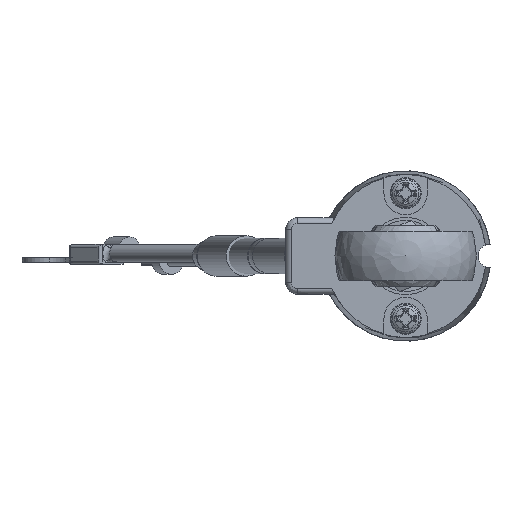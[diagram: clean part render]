
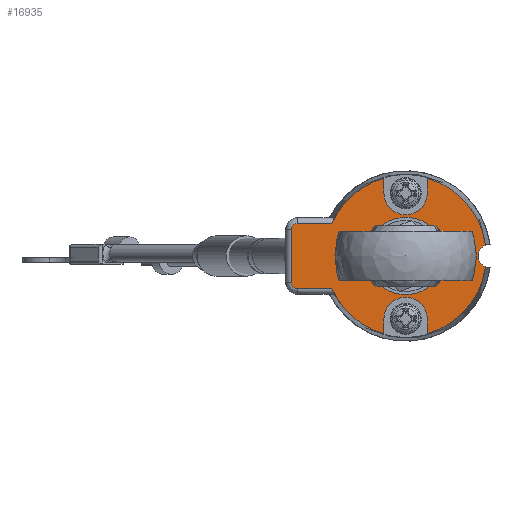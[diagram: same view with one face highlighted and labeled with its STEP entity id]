
A CAD part, left-side view. The second image highlights one B-rep face of the part: STEP entity #16935.
In plain terms, the highlighted planar face has unit normal (-1, 0, 0).
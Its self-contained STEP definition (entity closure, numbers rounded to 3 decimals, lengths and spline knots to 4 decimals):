
#1690=ELLIPSE('',#18040,0.03,0.03);
#1691=ELLIPSE('',#18044,0.03,0.03);
#1706=FACE_BOUND('',#2909,.T.);
#1841=PLANE('',#18046);
#2139=FACE_OUTER_BOUND('',#2908,.T.);
#2908=EDGE_LOOP('',(#10745,#10746,#10747,#10748,#10749,#10750,#10751,#10752,
#10753,#10754,#10755,#10756,#10757,#10758,#10759,#10760));
#2909=EDGE_LOOP('',(#10761));
#3724=LINE('',#23330,#4346);
#3725=LINE('',#23362,#4347);
#3726=LINE('',#23405,#4348);
#3727=LINE('',#23412,#4349);
#3728=LINE('',#23416,#4350);
#3729=LINE('',#23424,#4351);
#3730=LINE('',#23427,#4352);
#4346=VECTOR('',#19771,0.3937);
#4347=VECTOR('',#19780,0.3937);
#4348=VECTOR('',#19787,0.3937);
#4349=VECTOR('',#19794,0.3937);
#4350=VECTOR('',#19797,0.3937);
#4351=VECTOR('',#19804,0.3937);
#4352=VECTOR('',#19807,0.3937);
#4940=CIRCLE('',#18009,0.105);
#4953=CIRCLE('',#18047,0.41);
#4954=CIRCLE('',#18048,0.41);
#4955=CIRCLE('',#18049,0.11);
#4956=CIRCLE('',#18050,0.41);
#4957=CIRCLE('',#18051,0.06);
#4958=CIRCLE('',#18052,0.41);
#4959=CIRCLE('',#18053,0.11);
#5599=VERTEX_POINT('',#23171);
#5622=VERTEX_POINT('',#23314);
#5623=VERTEX_POINT('',#23316);
#5624=VERTEX_POINT('',#23356);
#5625=VERTEX_POINT('',#23360);
#5626=VERTEX_POINT('',#23388);
#5627=VERTEX_POINT('',#23392);
#5628=VERTEX_POINT('',#23407);
#5629=VERTEX_POINT('',#23409);
#5630=VERTEX_POINT('',#23411);
#5631=VERTEX_POINT('',#23413);
#5632=VERTEX_POINT('',#23415);
#5633=VERTEX_POINT('',#23417);
#5634=VERTEX_POINT('',#23419);
#5635=VERTEX_POINT('',#23421);
#5636=VERTEX_POINT('',#23423);
#5637=VERTEX_POINT('',#23425);
#7726=EDGE_CURVE('',#5599,#5599,#4940,.T.);
#7764=EDGE_CURVE('',#5623,#5622,#3724,.T.);
#7766=EDGE_CURVE('',#5622,#5624,#1690,.T.);
#7768=EDGE_CURVE('',#5624,#5625,#3725,.T.);
#7770=EDGE_CURVE('',#5625,#5626,#1691,.T.);
#7772=EDGE_CURVE('',#5626,#5627,#3726,.T.);
#7773=EDGE_CURVE('',#5627,#5628,#4953,.T.);
#7774=EDGE_CURVE('',#5629,#5623,#4954,.T.);
#7775=EDGE_CURVE('',#5629,#5630,#3727,.T.);
#7776=EDGE_CURVE('',#5630,#5631,#4955,.T.);
#7777=EDGE_CURVE('',#5631,#5632,#3728,.T.);
#7778=EDGE_CURVE('',#5633,#5632,#4956,.T.);
#7779=EDGE_CURVE('',#5633,#5634,#4957,.T.);
#7780=EDGE_CURVE('',#5635,#5634,#4958,.T.);
#7781=EDGE_CURVE('',#5635,#5636,#3729,.T.);
#7782=EDGE_CURVE('',#5636,#5637,#4959,.T.);
#7783=EDGE_CURVE('',#5637,#5628,#3730,.T.);
#10745=ORIENTED_EDGE('',*,*,#7773,.F.);
#10746=ORIENTED_EDGE('',*,*,#7772,.F.);
#10747=ORIENTED_EDGE('',*,*,#7770,.F.);
#10748=ORIENTED_EDGE('',*,*,#7768,.F.);
#10749=ORIENTED_EDGE('',*,*,#7766,.F.);
#10750=ORIENTED_EDGE('',*,*,#7764,.F.);
#10751=ORIENTED_EDGE('',*,*,#7774,.F.);
#10752=ORIENTED_EDGE('',*,*,#7775,.T.);
#10753=ORIENTED_EDGE('',*,*,#7776,.T.);
#10754=ORIENTED_EDGE('',*,*,#7777,.T.);
#10755=ORIENTED_EDGE('',*,*,#7778,.F.);
#10756=ORIENTED_EDGE('',*,*,#7779,.T.);
#10757=ORIENTED_EDGE('',*,*,#7780,.F.);
#10758=ORIENTED_EDGE('',*,*,#7781,.T.);
#10759=ORIENTED_EDGE('',*,*,#7782,.T.);
#10760=ORIENTED_EDGE('',*,*,#7783,.T.);
#10761=ORIENTED_EDGE('',*,*,#7726,.T.);
#16935=ADVANCED_FACE('',(#2139,#1706),#1841,.T.);
#18009=AXIS2_PLACEMENT_3D('',#23172,#19696,#19697);
#18040=AXIS2_PLACEMENT_3D('',#23358,#19774,#19775);
#18044=AXIS2_PLACEMENT_3D('',#23390,#19783,#19784);
#18046=AXIS2_PLACEMENT_3D('',#23406,#19788,#19789);
#18047=AXIS2_PLACEMENT_3D('',#23408,#19790,#19791);
#18048=AXIS2_PLACEMENT_3D('',#23410,#19792,#19793);
#18049=AXIS2_PLACEMENT_3D('',#23414,#19795,#19796);
#18050=AXIS2_PLACEMENT_3D('',#23418,#19798,#19799);
#18051=AXIS2_PLACEMENT_3D('',#23420,#19800,#19801);
#18052=AXIS2_PLACEMENT_3D('',#23422,#19802,#19803);
#18053=AXIS2_PLACEMENT_3D('',#23426,#19805,#19806);
#19696=DIRECTION('center_axis',(1.,0.,0.));
#19697=DIRECTION('ref_axis',(0.,0.,1.));
#19771=DIRECTION('',(0.,1.,0.));
#19774=DIRECTION('center_axis',(1.,0.,0.));
#19775=DIRECTION('ref_axis',(0.,0.,
-1.));
#19780=DIRECTION('',(0.,0.,1.));
#19783=DIRECTION('center_axis',(1.,0.,0.));
#19784=DIRECTION('ref_axis',(0.,0.,
1.));
#19787=DIRECTION('',(0.,-1.,0.));
#19788=DIRECTION('center_axis',(-1.,0.,0.));
#19789=DIRECTION('ref_axis',(0.,0.,1.));
#19790=DIRECTION('center_axis',(1.,0.,0.));
#19791=DIRECTION('ref_axis',(0.,1.,0.));
#19792=DIRECTION('center_axis',(1.,0.,0.));
#19793=DIRECTION('ref_axis',(0.,1.,0.));
#19794=DIRECTION('',(0.,0.,1.));
#19795=DIRECTION('center_axis',(1.,0.,0.));
#19796=DIRECTION('ref_axis',(0.,-1.,0.));
#19797=DIRECTION('',(0.,0.,-1.));
#19798=DIRECTION('center_axis',(1.,0.,0.));
#19799=DIRECTION('ref_axis',(0.,1.,0.));
#19800=DIRECTION('center_axis',(1.,0.,0.));
#19801=DIRECTION('ref_axis',(0.,0.,-1.));
#19802=DIRECTION('center_axis',(1.,0.,0.));
#19803=DIRECTION('ref_axis',(0.,1.,0.));
#19804=DIRECTION('',(0.,0.,-1.));
#19805=DIRECTION('center_axis',(1.,0.,0.));
#19806=DIRECTION('ref_axis',(0.,1.,0.));
#19807=DIRECTION('',(0.,0.,1.));
#23171=CARTESIAN_POINT('',(-0.2209,0.,-0.105));
#23172=CARTESIAN_POINT('Origin',(-0.2209,0.,0.));
#23314=CARTESIAN_POINT('',(-0.2209,0.55,-0.1649));
#23316=CARTESIAN_POINT('',(-0.2209,0.3754,-0.1649));
#23330=CARTESIAN_POINT('',(-0.2209,0.2825,-0.1649));
#23356=CARTESIAN_POINT('',(-0.2209,0.58,-0.1349));
#23358=CARTESIAN_POINT('Origin',(-0.2209,0.55,-0.1349));
#23360=CARTESIAN_POINT('',(-0.2209,0.58,0.1349));
#23362=CARTESIAN_POINT('',(-0.2209,0.58,-0.044));
#23388=CARTESIAN_POINT('',(-0.2209,0.55,0.1649));
#23390=CARTESIAN_POINT('Origin',(-0.2209,0.55,0.1349));
#23392=CARTESIAN_POINT('',(-0.2209,0.3754,0.1649));
#23405=CARTESIAN_POINT('',(-0.2209,0.2825,0.1649));
#23406=CARTESIAN_POINT('Origin',(-0.2209,0.205,0.));
#23407=CARTESIAN_POINT('',(-0.2209,0.11,0.395));
#23408=CARTESIAN_POINT('Origin',(-0.2209,0.,0.));
#23409=CARTESIAN_POINT('',(-0.2209,0.11,-0.395));
#23410=CARTESIAN_POINT('Origin',(-0.2209,0.,0.));
#23411=CARTESIAN_POINT('',(-0.2209,0.11,-0.3193));
#23412=CARTESIAN_POINT('',(-0.2209,0.11,-0.1596));
#23413=CARTESIAN_POINT('',(-0.2209,-0.11,-0.3193));
#23414=CARTESIAN_POINT('Origin',(-0.2209,0.,-0.3193));
#23415=CARTESIAN_POINT('',(-0.2209,-0.11,-0.395));
#23416=CARTESIAN_POINT('',(-0.2209,-0.11,-0.2243));
#23417=CARTESIAN_POINT('',(-0.2209,-0.4062,-0.0556));
#23418=CARTESIAN_POINT('Origin',(-0.2209,0.,0.));
#23419=CARTESIAN_POINT('',(-0.2209,-0.4062,0.0556));
#23420=CARTESIAN_POINT('Origin',(-0.2209,-0.4289,0.));
#23421=CARTESIAN_POINT('',(-0.2209,-0.11,0.395));
#23422=CARTESIAN_POINT('Origin',(-0.2209,0.,0.));
#23423=CARTESIAN_POINT('',(-0.2209,-0.11,0.3193));
#23424=CARTESIAN_POINT('',(-0.2209,-0.11,0.1596));
#23425=CARTESIAN_POINT('',(-0.2209,0.11,0.3193));
#23426=CARTESIAN_POINT('Origin',(-0.2209,0.,0.3193));
#23427=CARTESIAN_POINT('',(-0.2209,0.11,0.2243));
